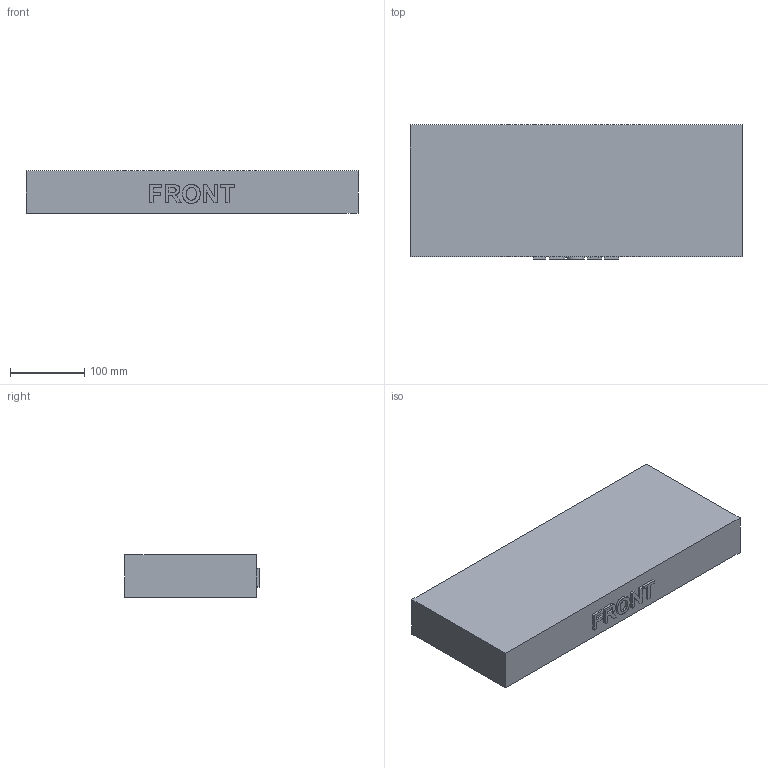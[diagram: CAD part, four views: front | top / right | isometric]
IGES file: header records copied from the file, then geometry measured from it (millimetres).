
Start section: Comment
Global section: file name: 2306-lid, internal tub.igs; native system:  By UGS Corp.; preprocessor: XPlus GENERIC/IGES 3.0; author: Author; organization: Title; date: 20100421.102142; units: millimetre
Bounding box: 447.57 x 180.97 x 57.15 mm (x, y, z)
Surface area: 281851.5 mm2 (no closed solid volume)
Topology: 0 solids, 0 shells, 230 faces, 1274 edges, 1270 vertices
Faces by surface type: bspline 230
